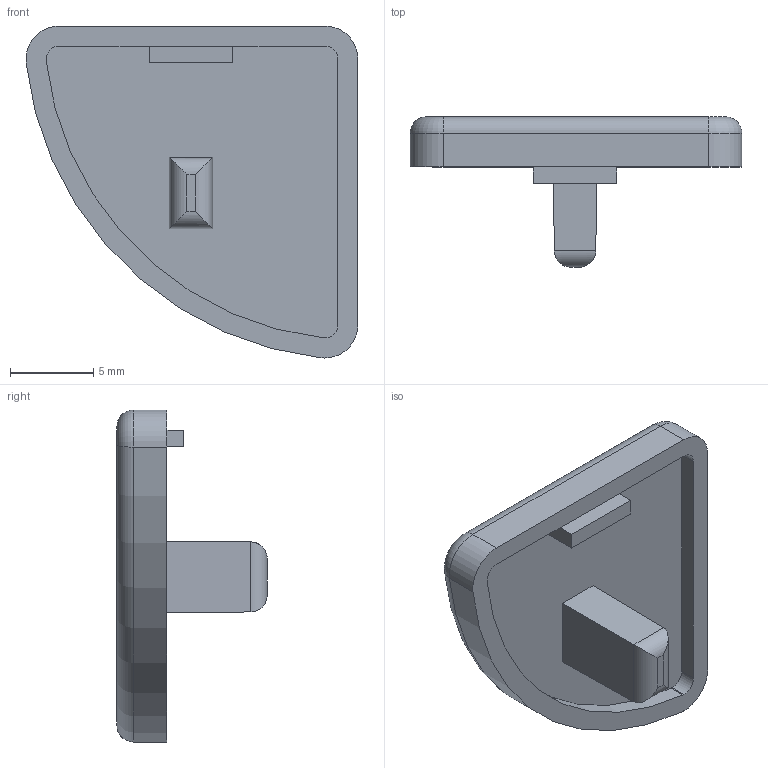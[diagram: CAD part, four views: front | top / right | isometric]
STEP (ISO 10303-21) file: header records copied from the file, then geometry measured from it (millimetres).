
FILE_DESCRIPTION (( 'STEP AP214' ), '1' );
FILE_NAME ('J2C.step', '2017-05-24T07:36:23', ( 'admin' ), ( '' ), 'SwSTEP 2.0', 'SolidWorks 2014', '' );
FILE_SCHEMA (( 'AUTOMOTIVE_DESIGN' ));
Length unit declared in the file: millimetre
Products named in the file (1): J2C
Bounding box: 19.89 x 9 x 19.89 mm (x, y, z)
Volume: 768.8 mm3; surface area: 961.5 mm2
Topology: 1 solids, 1 shells, 39 faces, 92 edges, 57 vertices
Faces by surface type: plane 18, cylinder 16, torus 5
Entity records: 1148 total; most frequent: CARTESIAN_POINT 201, DIRECTION 200, ORIENTED_EDGE 184, EDGE_CURVE 92, AXIS2_PLACEMENT_3D 72, VERTEX_POINT 57, VECTOR 56, LINE 56
